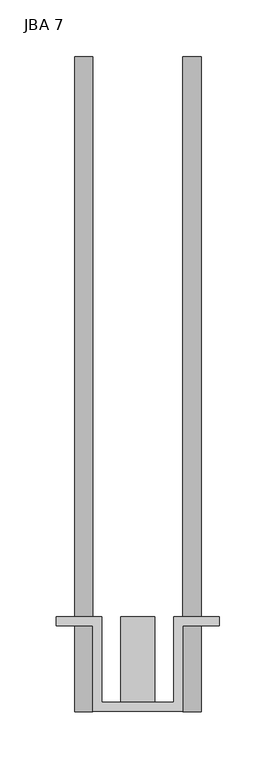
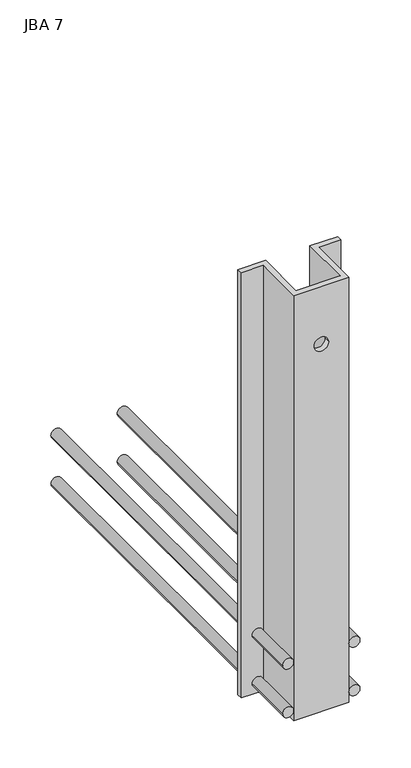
"""IFC4 building model written with IfcOpenShell, lengths in millimetres: fastener geometry, JBA JORDAHL® support corbels_1 : JBA 7."""

from ifc_helpers import new_model, si_unit, point, frame, frame_2d, origin, place, context, project, spatial, polyline, circle_curve, trimmed, segment, composite_curve, outline, extrude, source, transform, mapped, element, save
from ifc_brep_helpers import plane_surface, revolved_surface, advanced_brep


def jba_7_bb973c20(model_context):
    return source(origin(), model_context, "Body", "SolidModel", [
        extrude(outline(composite_curve([segment(trimmed(circle_curve(frame_2d((-33.0, -48.0)), 8.0), [point((-33.0, -56.0))], [point((-33.0, -40.0))], False, "CARTESIAN"), True, "CONTINUOUS"), segment(trimmed(circle_curve(frame_2d((-33.0, -48.0)), 8.0), [point((-33.0, -40.0))], [point((-33.0, -56.0))], False, "CARTESIAN"), True, "CONTINUOUS")], self_intersect=False)), frame((0.0, 0.0, 0.0), z_axis=(0.0, 1.0, 0.0), x_axis=(0.0, 0.0, 1.0)), (0.0, 0.0, 1.0), 580.0),
        extrude(outline(composite_curve([segment(trimmed(circle_curve(frame_2d((-33.0, 48.0)), 8.0), [point((-33.0, 40.0))], [point((-33.0, 56.0))], False, "CARTESIAN"), True, "CONTINUOUS"), segment(trimmed(circle_curve(frame_2d((-33.0, 48.0)), 8.0), [point((-33.0, 56.0))], [point((-33.0, 40.0))], False, "CARTESIAN"), True, "CONTINUOUS")], self_intersect=False)), frame((0.0, 0.0, 0.0), z_axis=(0.0, 1.0, 0.0), x_axis=(0.0, 0.0, 1.0)), (0.0, 0.0, 1.0), 580.0),
        extrude(outline(composite_curve([segment(trimmed(circle_curve(frame_2d((-107.0, -48.0)), 8.0), [point((-107.0, -56.0))], [point((-107.0, -40.0))], False, "CARTESIAN"), True, "CONTINUOUS"), segment(trimmed(circle_curve(frame_2d((-107.0, -48.0)), 8.0), [point((-107.0, -40.0))], [point((-107.0, -56.0))], False, "CARTESIAN"), True, "CONTINUOUS")], self_intersect=False)), frame((0.0, 0.0, 0.0), z_axis=(0.0, 1.0, 0.0), x_axis=(0.0, 0.0, 1.0)), (0.0, 0.0, 1.0), 580.0),
        extrude(outline(composite_curve([segment(trimmed(circle_curve(frame_2d((-107.0, 48.0)), 8.0), [point((-107.0, 40.0))], [point((-107.0, 56.0))], False, "CARTESIAN"), True, "CONTINUOUS"), segment(trimmed(circle_curve(frame_2d((-107.0, 48.0)), 8.0), [point((-107.0, 56.0))], [point((-107.0, 40.0))], False, "CARTESIAN"), True, "CONTINUOUS")], self_intersect=False)), frame((0.0, 0.0, 0.0), z_axis=(0.0, 1.0, 0.0), x_axis=(0.0, 0.0, 1.0)), (0.0, 0.0, 1.0), 580.0),
        advanced_brep(
        [(-72.0, 76.0, 527.0), (-40.0, 76.0, 527.0), (-40.0, 0.0, 527.0), (40.0, 0.0, 527.0), (40.0, 76.0, 527.0), (72.0, 76.0, 527.0), (72.0, 84.0, 527.0), (32.0, 84.0, 527.0), (32.0, 8.0, 527.0), (-32.0, 8.0, 527.0), (-32.0, 84.0, 527.0), (-72.0, 84.0, 527.0), (-72.0, 76.0, -123.0), (-72.0, 84.0, -123.0), (-32.0, 84.0, -123.0), (-32.0, 8.0, -123.0), (32.0, 8.0, -123.0), (32.0, 84.0, -123.0), (72.0, 84.0, -123.0), (72.0, 76.0, -123.0), (40.0, 76.0, -123.0), (40.0, 0.0, -123.0), (-40.0, 0.0, -123.0), (-40.0, 76.0, -123.0), (10.5, 0.0, 439.0), (-10.5, 0.0, 439.0), (-10.5, 8.0, 439.0), (10.5, 8.0, 439.0)],
        [
            (0, 1),
            (1, 2),
            (2, 3),
            (3, 4),
            (4, 5),
            (5, 6),
            (6, 7),
            (7, 8),
            (8, 9),
            (9, 10),
            (10, 11),
            (11, 0),
            (12, 13),
            (13, 14),
            (14, 15),
            (15, 16),
            (16, 17),
            (17, 18),
            (18, 19),
            (19, 20),
            (20, 21),
            (21, 22),
            (22, 23),
            (23, 12),
            (0, 12),
            (23, 1),
            (22, 2),
            (21, 3),
            (24, 25, circle_curve(frame((0.0, 0.0, 439.0), z_axis=(0.0, 1.0, 0.0), x_axis=(1.0, 0.0, 0.0)), 10.5)),
            (25, 24, circle_curve(frame((0.0, 0.0, 439.0), z_axis=(0.0, 1.0, 0.0), x_axis=(1.0, 0.0, 0.0)), 10.5)),
            (20, 4),
            (19, 5),
            (18, 6),
            (17, 7),
            (16, 8),
            (15, 9),
            (26, 27, circle_curve(frame((0.0, 8.0, 439.0), z_axis=(0.0, -1.0, 0.0), x_axis=(1.0, 0.0, 0.0)), 10.5)),
            (27, 26, circle_curve(frame((0.0, 8.0, 439.0), z_axis=(0.0, -1.0, 0.0), x_axis=(1.0, 0.0, 0.0)), 10.5)),
            (14, 10),
            (13, 11),
            (24, 27),
            (26, 25),
        ],
        [
            plane_surface(frame((0.0, 84.0, 527.0), z_axis=(0.0, 0.0, 1.0), x_axis=(0.0, -1.0, 0.0))),
            plane_surface(frame((0.0, 84.0, -123.0), z_axis=(0.0, 0.0, -1.0), x_axis=(0.0, -1.0, 0.0))),
            plane_surface(frame((-72.0, 76.0, 527.0), z_axis=(0.0, -1.0, 0.0), x_axis=(0.0, 0.0, -1.0))),
            plane_surface(frame((-40.0, 76.0, 527.0), z_axis=(-1.0, 0.0, 0.0), x_axis=(0.0, 0.0, -1.0))),
            plane_surface(frame((-40.0, 0.0, 527.0), z_axis=(0.0, -1.0, 0.0), x_axis=(0.0, 0.0, -1.0))),
            plane_surface(frame((40.0, 0.0, 527.0), z_axis=(1.0, 0.0, 0.0), x_axis=(0.0, 0.0, -1.0))),
            plane_surface(frame((40.0, 76.0, 527.0), z_axis=(0.0, -1.0, 0.0), x_axis=(0.0, 0.0, -1.0))),
            plane_surface(frame((72.0, 76.0, 527.0), z_axis=(1.0, 0.0, 0.0), x_axis=(0.0, 0.0, -1.0))),
            plane_surface(frame((72.0, 84.0, 527.0), z_axis=(0.0, 1.0, 0.0), x_axis=(0.0, 0.0, -1.0))),
            plane_surface(frame((32.0, 84.0, 527.0), z_axis=(-1.0, 0.0, 0.0), x_axis=(0.0, 0.0, -1.0))),
            plane_surface(frame((32.0, 8.0, 527.0), z_axis=(0.0, 1.0, 0.0), x_axis=(0.0, 0.0, -1.0))),
            plane_surface(frame((-32.0, 8.0, 527.0), z_axis=(1.0, 0.0, 0.0), x_axis=(0.0, 0.0, -1.0))),
            plane_surface(frame((-32.0, 84.0, 527.0), z_axis=(0.0, 1.0, 0.0), x_axis=(0.0, 0.0, -1.0))),
            plane_surface(frame((-72.0, 84.0, 527.0), z_axis=(-1.0, 0.0, 0.0), x_axis=(0.0, 0.0, -1.0))),
            revolved_surface(polyline([(10.5, 0.0, 439.0), (10.5, 8.0, 439.0)]), (0.0, 8.0, 439.0), (0.0, -1.0, 0.0)),
        ],
        [
            (0, [[1, 2, 3, 4, 5, 6, 7, 8, 9, 10, 11, 12]]),
            (1, [[13, 14, 15, 16, 17, 18, 19, 20, 21, 22, 23, 24]]),
            (2, [[-1, 25, -24, 26]]),
            (3, [[-2, -26, -23, 27]]),
            (4, [[-3, -27, -22, 28], [29, 30]]),
            (5, [[-4, -28, -21, 31]]),
            (6, [[-5, -31, -20, 32]]),
            (7, [[-6, -32, -19, 33]]),
            (8, [[-7, -33, -18, 34]]),
            (9, [[-8, -34, -17, 35]]),
            (10, [[-9, -35, -16, 36], [37, 38]]),
            (11, [[-10, -36, -15, 39]]),
            (12, [[-11, -39, -14, 40]]),
            (13, [[-12, -40, -13, -25]]),
            (14, [[41, -37, 42, -29]]),
            (14, [[-41, -30, -42, -38]]),
        ],
    ),
        extrude(outline(composite_curve([segment(trimmed(circle_curve(frame_2d((50.0, 0.0)), 15.0), [point((50.0, -15.0))], [point((50.0, 15.0))], False, "CARTESIAN"), True, "CONTINUOUS"), segment(trimmed(circle_curve(frame_2d((50.0, 0.0)), 15.0), [point((50.0, 15.0))], [point((50.0, -15.0))], False, "CARTESIAN"), True, "CONTINUOUS")], self_intersect=False)), frame((0.0, 8.0, 0.0), z_axis=(0.0, 1.0, 0.0), x_axis=(0.0, 0.0, 1.0)), (0.0, 0.0, 1.0), 76.0),
    ])


if __name__ == "__main__":
    model = new_model("IFC4")
    model_context = context("Model", 3, world=origin())
    ifc_project = project(units=[si_unit("LENGTHUNIT", "METRE", prefix="MILLI")], contexts=[model_context])
    site = spatial("IfcSite", under=ifc_project)
    building = spatial("IfcBuilding", under=site)
    placement = place(None, origin())
    jba_7_shape = jba_7_bb973c20(model_context)
    element("IfcFastener", 1, ObjectType="JBA JORDAHL® support corbels_1 : JBA 7", at=placement, inside=building, context=model_context, shape_type="MappedRepresentation", body=[
        mapped(jba_7_shape, transform((0.0, 0.0, 0.0), x_axis=(1.0, 0.0, 0.0), y_axis=(0.0, 1.0, 0.0), z_axis=(0.0, 0.0, 1.0))),
    ])
    save(model, "model.ifc")
